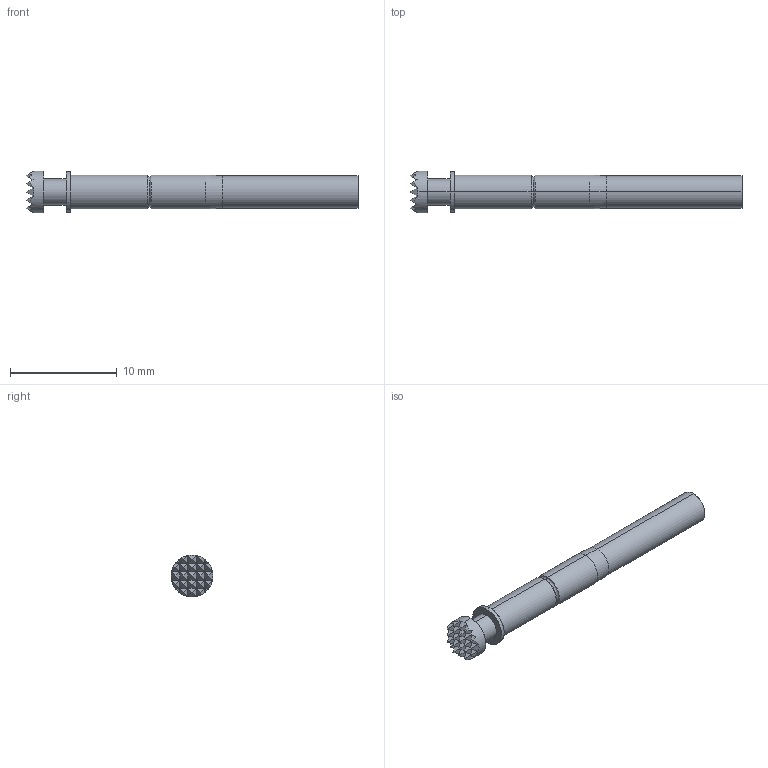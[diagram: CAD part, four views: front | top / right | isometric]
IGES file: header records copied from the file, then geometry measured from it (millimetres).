
Start section: SolidWorks IGES file using analytic representation for surfaces
Global section: file name: O:\PYLON\IGES FILES\P2550\P2550-6 REC'D.IGS; native system: SolidWorks 2015; preprocessor: SolidWorks 2015; author: kgolden; date: 171020.112855; units: inch
Bounding box: 31.14 x 3.91 x 3.91 mm (x, y, z)
Surface area: 411.7 mm2 (no closed solid volume)
Topology: 0 solids, 0 shells, 112 faces, 726 edges, 724 vertices
Faces by surface type: bspline 96, revolution 16
